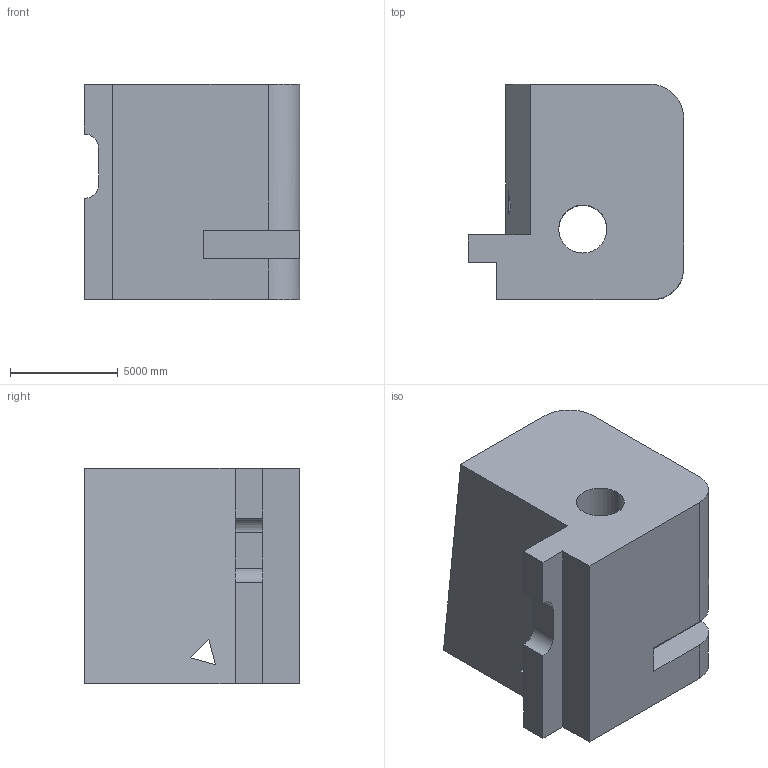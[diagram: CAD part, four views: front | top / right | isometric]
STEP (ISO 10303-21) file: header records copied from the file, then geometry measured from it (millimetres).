
FILE_DESCRIPTION (( 'STEP AP203' ), '1' );
FILE_NAME ('146.STEP', '2022-08-31T11:54:36', ( 'user' ), ( '' ), 'SwSTEP 2.0', 'SolidWorks 2021', '' );
FILE_SCHEMA (( 'CONFIG_CONTROL_DESIGN' ));
Length unit declared in the file: centimetre
Products named in the file (1): 146
Bounding box: 10000 x 10000 x 10000 mm (x, y, z)
Volume: 752524463396.7 mm3; surface area: 643411712.1 mm2
Topology: 1 solids, 1 shells, 26 faces, 75 edges, 50 vertices
Faces by surface type: plane 20, cylinder 6
Entity records: 942 total; most frequent: CARTESIAN_POINT 164, ORIENTED_EDGE 150, DIRECTION 139, EDGE_CURVE 75, VECTOR 57, LINE 57, VERTEX_POINT 50, AXIS2_PLACEMENT_3D 41
